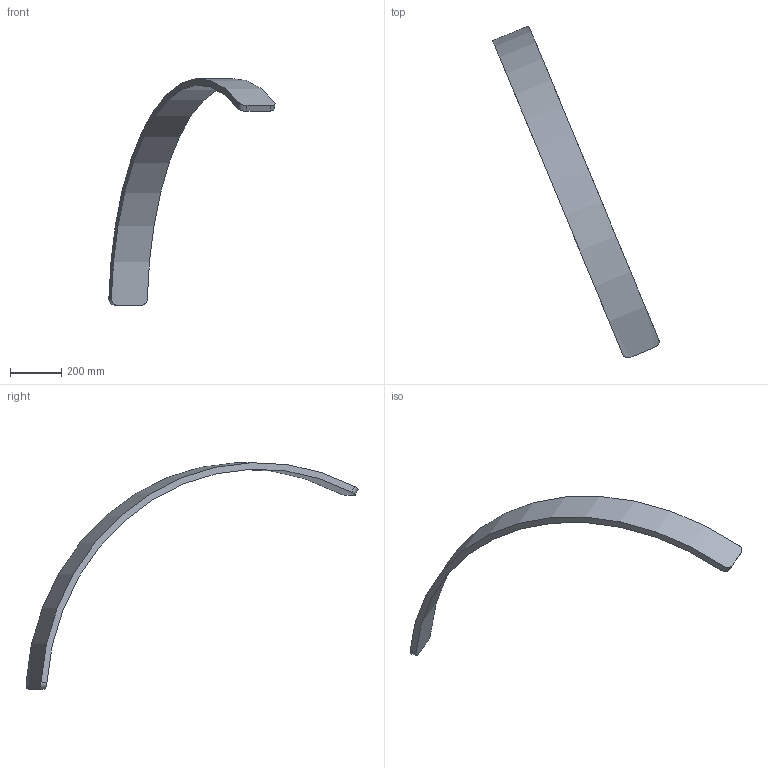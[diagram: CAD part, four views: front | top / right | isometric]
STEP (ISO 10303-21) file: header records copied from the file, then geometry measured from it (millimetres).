
FILE_DESCRIPTION (( 'STEP AP214' ), '1' );
FILE_NAME ('Section 11 AR.STEP', '2025-01-09T19:43:25', ( '' ), ( '' ), 'SwSTEP 2.0', 'SolidWorks 2024', '' );
FILE_SCHEMA (( 'AUTOMOTIVE_DESIGN' ));
Length unit declared in the file: inch
Products named in the file (1): Section 11 AR
Bounding box: 650.99 x 1299.71 x 886.91 mm (x, y, z)
Volume: 7087719.2 mm3; surface area: 657921.4 mm2
Topology: 1 solids, 1 shells, 10 faces, 24 edges, 16 vertices
Faces by surface type: cylinder 6, plane 4
Entity records: 543 total; most frequent: CARTESIAN_POINT 291, ORIENTED_EDGE 48, DIRECTION 42, EDGE_CURVE 24, VERTEX_POINT 16, AXIS2_PLACEMENT_3D 15, LINE 12, VECTOR 12
